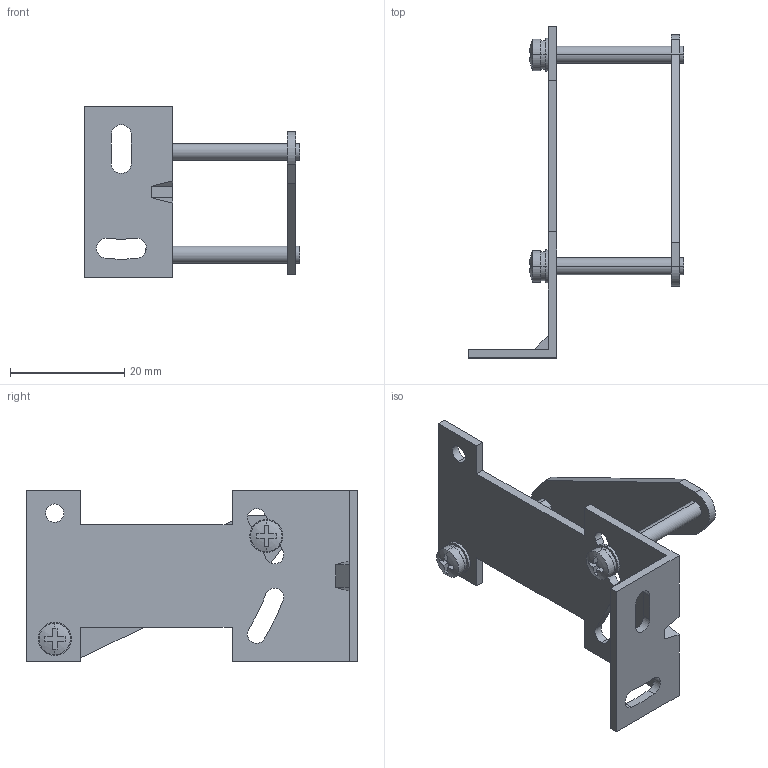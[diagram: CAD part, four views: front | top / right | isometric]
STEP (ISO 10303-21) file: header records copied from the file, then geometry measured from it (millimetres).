
FILE_DESCRIPTION (( 'STEP AP203' ), '1' );
FILE_NAME ('ms-hg-01.STEP', '2014-12-12T08:40:04', ( '**********' ), ( '**********' ), 'SwSTEP 2.0', 'SolidWorks 2010', '' );
FILE_SCHEMA (( 'CONFIG_CONTROL_DESIGN' ));
Length unit declared in the file: millimetre
Products named in the file (4): ms-hg-01; ms-hg-01_l; ms-hg-01_nut; M3L25add_fw
Assembly tree (4 placements, depth 2):
  ms-hg-01
    ms-hg-01_nut
    M3L25add_fw  x2
    ms-hg-01_l
Bounding box: 37.7 x 58 x 30 mm (x, y, z)
Volume: 3668.6 mm3; surface area: 5671.9 mm2
Topology: 4 solids, 4 shells, 115 faces, 299 edges, 198 vertices
Faces by surface type: plane 66, cylinder 45, bspline 4
Entity records: 3285 total; most frequent: CARTESIAN_POINT 570, DIRECTION 483, ORIENTED_EDGE 470, EDGE_CURVE 235, AXIS2_PLACEMENT_3D 169, VERTEX_POINT 156, VECTOR 145, LINE 145
